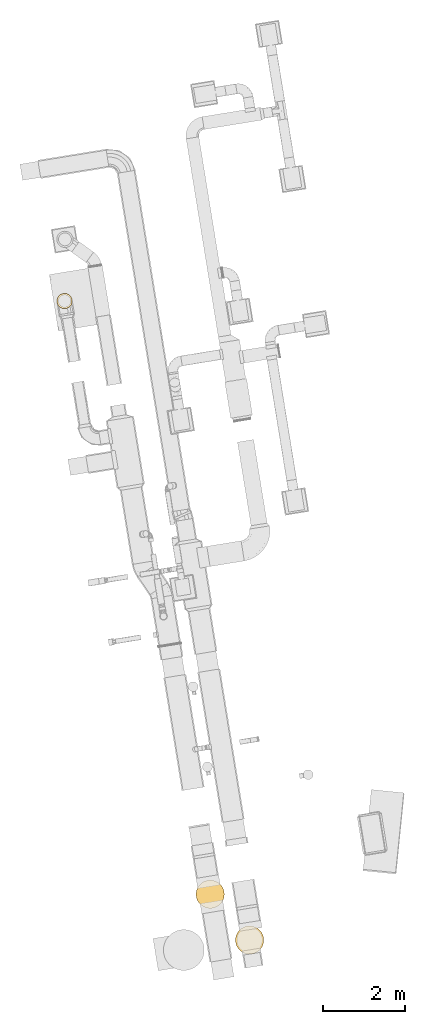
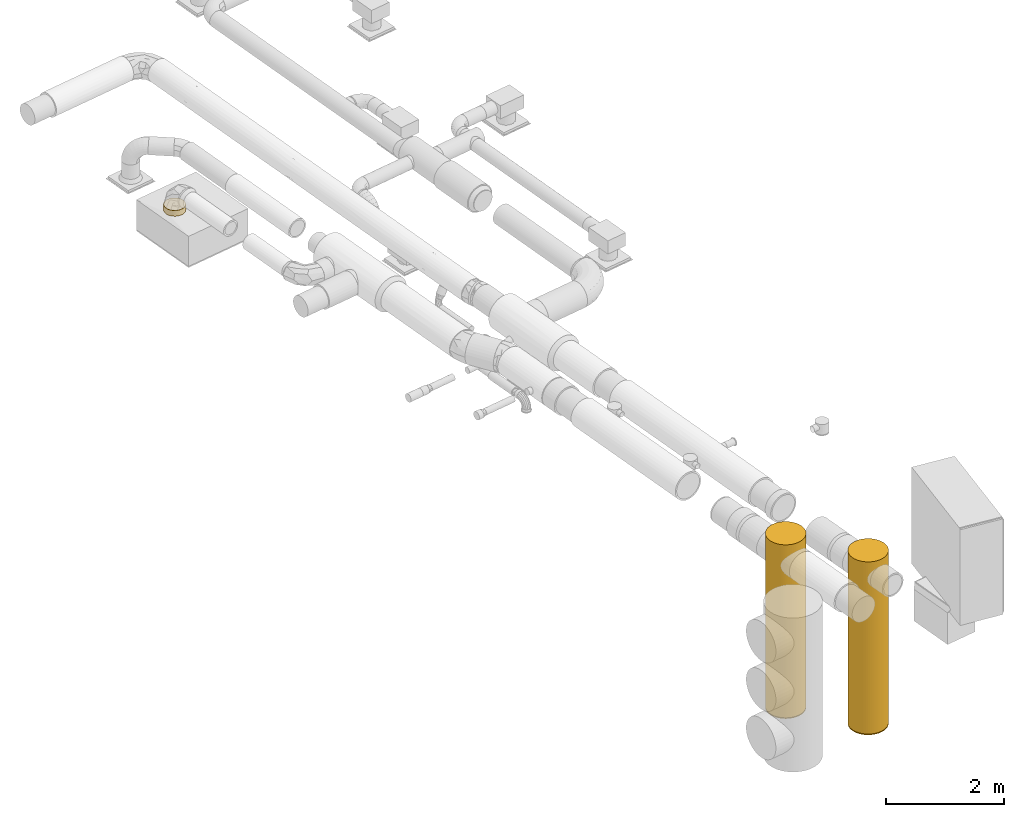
# One storey, part 1 of 39: 5 coverings.
"""IFC2X3 building model written with IfcOpenShell, lengths in millimetres."""

from ifc_helpers import new_model, entity, si_unit, converted_unit, derived_unit, direction, frame, frame_2d, origin, origin_with_axes, origin_2d_with_axis, place, context, subcontext, project, spatial, circle, extrude, type_object, element, save


model = new_model("IFC2X3")

# Units and contexts
plan_context = context("Plan", 3, precision=1e-05, world=origin_with_axes())
model_context = context("Model", 3, precision=0.01, world=origin(), true_north=direction((6.12323399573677e-17, 1.0)))
body_context = subcontext(model_context, "Body", "Model", "MODEL_VIEW")
ifc_project = project(units=[converted_unit("PLANEANGLEUNIT", "DEGREE", entity("IfcPositiveLengthMeasure", 0.0174532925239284), si_unit("PLANEANGLEUNIT", "RADIAN"), dimensions=[0, 0, 0, 0, 0, 0, 0]), si_unit("AREAUNIT", "SQUARE_METRE"), si_unit("LENGTHUNIT", "METRE", prefix="MILLI"), si_unit("MASSUNIT", "GRAM", prefix="KILO"), si_unit("POWERUNIT", "WATT"), si_unit("PRESSUREUNIT", "PASCAL", prefix="KILO"), si_unit("FORCEUNIT", "NEWTON", prefix="KILO"), si_unit("ELECTRICVOLTAGEUNIT", "VOLT"), si_unit("ELECTRICCURRENTUNIT", "AMPERE"), si_unit("THERMODYNAMICTEMPERATUREUNIT", "DEGREE_CELSIUS"), si_unit("TIMEUNIT", "SECOND"), si_unit("VOLUMEUNIT", "CUBIC_METRE"), derived_unit("LINEARVELOCITYUNIT", [(si_unit("LENGTHUNIT", "METRE"), 1), (si_unit("TIMEUNIT", "SECOND"), -1)]), derived_unit("VOLUMETRICFLOWRATEUNIT", [(si_unit("VOLUMEUNIT", "CUBIC_METRE"), 1), (si_unit("TIMEUNIT", "SECOND"), -1)]), derived_unit("THERMALTRANSMITTANCEUNIT", [(si_unit("POWERUNIT", "WATT"), 1), (si_unit("THERMODYNAMICTEMPERATUREUNIT", "KELVIN"), -1), (si_unit("AREAUNIT", "SQUARE_METRE"), -1)]), derived_unit("SOUNDPRESSUREUNIT", [(si_unit("PRESSUREUNIT", "PASCAL"), 1)])], contexts=[model_context, plan_context])

# Site, building, storey
site_placement = place(None, frame((-0.00071070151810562, 0.00438415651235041, 0.0), z_axis=(0.0, 0.0, 1.0), x_axis=(-0.160236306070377, 0.987078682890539, 0.0)))
site = spatial("IfcSite", under=ifc_project, at=site_placement, Name="Default", CompositionType="ELEMENT")
building_placement = place(site_placement, origin_with_axes())
building = spatial("IfcBuilding", under=site, at=building_placement, CompositionType="ELEMENT")
storey_placement = place(building_placement, frame((0.0, 0.0, 58999.9999999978), z_axis=(0.0, 0.0, 1.0), x_axis=(1.0, 0.0, 0.0)))
storey = spatial("IfcBuildingStorey", under=building, at=storey_placement, Name="Nivå F", CompositionType="ELEMENT", Elevation=58999.9999999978)

# Coverings
covering_type_1 = type_object("IfcCoveringType", Name="Duct Insulation:EI 120-60", PredefinedType="INSULATION")
covering_1_placement = place(storey_placement, origin_with_axes())
element("IfcCovering", 1, at=covering_1_placement, inside=storey, type_object=covering_type_1, Name="Duct Insulation:EI 120-60", ObjectType="Duct Insulation:EI 120-60", PredefinedType="INSULATION", context=body_context, shape_type="SweptSolid", body=[
    extrude(circle(Radius=345.0, at=origin_2d_with_axis()), frame((763870.86087582, -503270.00861507, -19.9999999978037)), (0.0, 0.0, 1.0), 20.0000000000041),
])
covering_2_placement = place(storey_placement, origin_with_axes())
element("IfcCovering", 2, at=covering_2_placement, inside=storey, type_object=covering_type_1, Name="Duct Insulation:EI 120-60", ObjectType="Duct Insulation:EI 120-60", PredefinedType="INSULATION", context=body_context, shape_type="SweptSolid", body=[
    extrude(circle(Radius=345.0, at=origin_2d_with_axis()), frame((763870.86087582, -503270.00861507, 2.20038600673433e-09)), (0.0, 0.0, 1.0), 3559.9999999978),
])
covering_3_placement = place(storey_placement, origin_with_axes())
element("IfcCovering", 3, at=covering_3_placement, inside=storey, type_object=covering_type_1, Name="Duct Insulation:EI 120-60", ObjectType="Duct Insulation:EI 120-60", PredefinedType="INSULATION", context=body_context, shape_type="SweptSolid", body=[
    extrude(circle(Radius=345.0, at=frame_2d((0.0, 6.93034962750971e-11), x_axis=(1.0, 0.0))), frame((765132.590423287, -502496.834704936, -6.85247487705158)), (0.0, 0.0, 1.0), 3576.85247487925),
])
covering_4_placement = place(storey_placement, origin_with_axes())
element("IfcCovering", 4, at=covering_4_placement, inside=storey, type_object=covering_type_1, Name="Duct Insulation:EI 120-60", ObjectType="Duct Insulation:EI 120-60", PredefinedType="INSULATION", context=body_context, shape_type="SweptSolid", body=[
    extrude(circle(Radius=345.0, at=frame_2d((0.0, 6.93034962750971e-11), x_axis=(1.0, 0.0))), frame((765132.590423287, -502496.834704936, -26.852474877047)), (0.0, 0.0, 1.0), 20.0000000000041),
])
covering_type_2 = type_object("IfcCoveringType", Name="Duct Insulation:EI 60-30", PredefinedType="INSULATION")
covering_5_placement = place(storey_placement, origin_with_axes())
element("IfcCovering", 5, at=covering_5_placement, inside=storey, type_object=covering_type_2, Name="Duct Insulation:EI 60-30", ObjectType="Duct Insulation:EI 60-30", PredefinedType="INSULATION", context=body_context, shape_type="SweptSolid", body=[
    extrude(circle(Radius=187.5, at=frame_2d((0.0, -1.38606992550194e-10), x_axis=(1.0, 0.0))), frame((780044.619644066, -501304.709617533, 2695.0), z_axis=(0.0, 0.0, 1.0), x_axis=(0.0, -1.0, 0.0)), (0.0, 0.0, 1.0), 119.999999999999),
])

save(model, "model.ifc")
